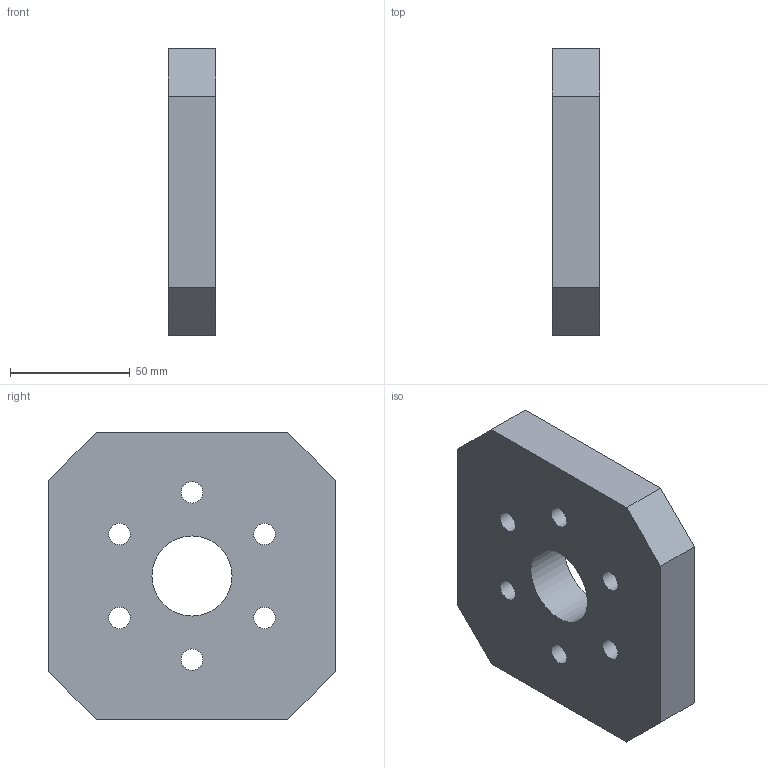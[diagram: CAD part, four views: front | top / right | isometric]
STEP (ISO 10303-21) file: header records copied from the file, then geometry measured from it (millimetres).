
FILE_DESCRIPTION(/* description */ (''),/* implementation_level */ '2;1');
FILE_NAME(/* name */ 'L:\DOKUMENT_DB\Arbeitsordner_Ba\Fachmodule\XXFMFL1_d\Links_Internet\Aufgabe_6-9\Befestigungsplatte_690003.stp',/* time_stamp */ '2020-01-24T08:30:46+01:00',/* author */ ('ba'),/* organization */ (''),/* preprocessor_version */ 'ST-DEVELOPER v18',/* originating_system */ 'Autodesk Inventor 2020',/* authorisation */ '');
FILE_SCHEMA (('AUTOMOTIVE_DESIGN { 1 0 10303 214 3 1 1 }'));
Length unit declared in the file: millimetre
Products named in the file (1): Befestigungsplatte
Bounding box: 20 x 120 x 120 mm (x, y, z)
Volume: 240901.8 mm3; surface area: 39806.9 mm2
Topology: 1 solids, 1 shells, 29 faces, 77 edges, 56 vertices
Faces by surface type: plane 16, cylinder 13
Full cylindrical faces by diameter (mm): 9 x6, 15 x6, 33.5 x1
Entity records: 1012 total; most frequent: DIRECTION 177, CARTESIAN_POINT 163, ORIENTED_EDGE 154, EDGE_CURVE 77, AXIS2_PLACEMENT_3D 70, VERTEX_POINT 56, EDGE_LOOP 49, CIRCLE 40
